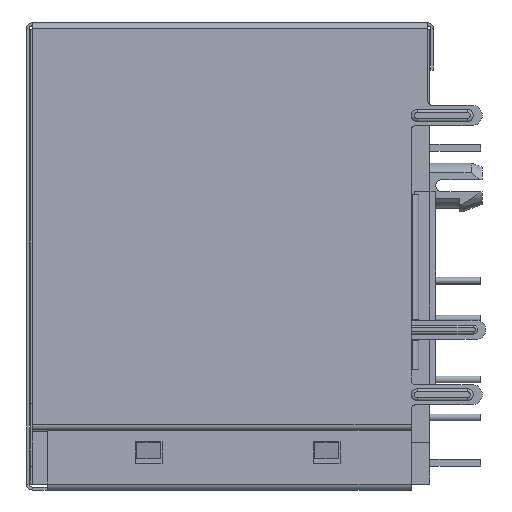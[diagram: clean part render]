
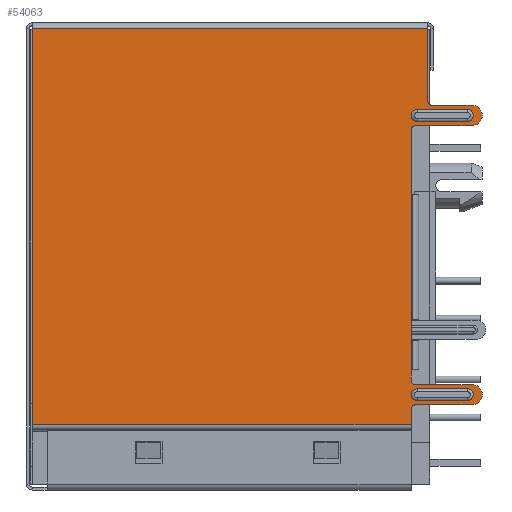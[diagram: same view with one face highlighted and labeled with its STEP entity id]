
A CAD part, left-side view. The second image highlights one B-rep face of the part: STEP entity #54063.
In plain terms, the highlighted planar face has unit normal (-1, 0, 0).
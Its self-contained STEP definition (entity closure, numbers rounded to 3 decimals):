
#47402=DIRECTION('',(0.,0.,1.));
#47403=VECTOR('',#47402,26.45);
#47404=CARTESIAN_POINT('',(-8.565,-0.2,-13.225));
#47405=LINE('',#47404,#47403);
#47420=DIRECTION('',(0.,-1.,0.));
#47421=VECTOR('',#47420,1.4);
#47422=CARTESIAN_POINT('',(-8.565,-19.64,12.11));
#47423=LINE('',#47422,#47421);
#47424=DIRECTION('',(0.,-1.,0.));
#47425=VECTOR('',#47424,0.7);
#47426=CARTESIAN_POINT('',(-8.565,-22.985,12.11));
#47427=LINE('',#47426,#47425);
#47428=CARTESIAN_POINT('',(-8.565,-23.685,12.41));
#47429=DIRECTION('',(-1.,0.,0.));
#47430=DIRECTION('',(0.,0.,-1.));
#47431=AXIS2_PLACEMENT_3D('',#47428,#47429,#47430);
#47433=DIRECTION('',(0.,0.,1.));
#47434=VECTOR('',#47433,3.775);
#47435=CARTESIAN_POINT('',(-8.565,-23.985,12.41));
#47436=LINE('',#47435,#47434);
#47437=CARTESIAN_POINT('',(-8.565,-24.66,16.185));
#47438=DIRECTION('',(1.,0.,0.));
#47439=DIRECTION('',(0.,1.,0.));
#47440=AXIS2_PLACEMENT_3D('',#47437,#47438,#47439);
#47442=DIRECTION('',(0.,0.,-1.));
#47443=VECTOR('',#47442,3.775);
#47444=CARTESIAN_POINT('',(-8.565,-25.335,16.185));
#47445=LINE('',#47444,#47443);
#47446=CARTESIAN_POINT('',(-8.565,-25.635,12.41));
#47447=DIRECTION('',(-1.,0.,0.));
#47448=DIRECTION('',(0.,1.,0.));
#47449=AXIS2_PLACEMENT_3D('',#47446,#47447,#47448);
#47451=DIRECTION('',(0.,-1.,0.));
#47452=VECTOR('',#47451,1.045);
#47453=CARTESIAN_POINT('',(-8.565,-25.635,12.11));
#47454=LINE('',#47453,#47452);
#47455=DIRECTION('',(0.,1.,0.));
#47456=VECTOR('',#47455,26.48);
#47457=CARTESIAN_POINT('',(-8.565,-26.68,-13.225));
#47458=LINE('',#47457,#47456);
#47459=DIRECTION('',(0.,-1.,0.));
#47460=VECTOR('',#47459,4.815);
#47461=CARTESIAN_POINT('',(-8.565,-0.2,13.225));
#47462=LINE('',#47461,#47460);
#47463=CARTESIAN_POINT('',(-8.565,-5.015,13.525));
#47464=DIRECTION('',(-1.,0.,0.));
#47465=DIRECTION('',(0.,0.,-1.));
#47466=AXIS2_PLACEMENT_3D('',#47463,#47464,#47465);
#47468=DIRECTION('',(0.,0.,1.));
#47469=VECTOR('',#47468,2.66);
#47470=CARTESIAN_POINT('',(-8.565,-5.315,13.525));
#47471=LINE('',#47470,#47469);
#47472=CARTESIAN_POINT('',(-8.565,-5.99,16.185));
#47473=DIRECTION('',(1.,0.,0.));
#47474=DIRECTION('',(0.,1.,0.));
#47475=AXIS2_PLACEMENT_3D('',#47472,#47473,#47474);
#47477=DIRECTION('',(0.,0.,-1.));
#47478=VECTOR('',#47477,3.775);
#47479=CARTESIAN_POINT('',(-8.565,-6.665,16.185));
#47480=LINE('',#47479,#47478);
#47481=CARTESIAN_POINT('',(-8.565,-6.965,12.41));
#47482=DIRECTION('',(-1.,0.,0.));
#47483=DIRECTION('',(0.,1.,0.));
#47484=AXIS2_PLACEMENT_3D('',#47481,#47482,#47483);
#47486=DIRECTION('',(0.,-1.,0.));
#47487=VECTOR('',#47486,4.3);
#47488=CARTESIAN_POINT('',(-8.565,-6.965,12.11));
#47489=LINE('',#47488,#47487);
#47490=CARTESIAN_POINT('',(-8.565,-5.99,15.86));
#47491=DIRECTION('',(1.,0.,0.));
#47492=DIRECTION('',(0.,1.,0.));
#47493=AXIS2_PLACEMENT_3D('',#47490,#47491,#47492);
#47495=DIRECTION('',(0.,0.,-1.));
#47496=VECTOR('',#47495,3.35);
#47497=CARTESIAN_POINT('',(-8.565,-5.59,15.86));
#47498=LINE('',#47497,#47496);
#47499=CARTESIAN_POINT('',(-8.565,-5.99,12.51));
#47500=DIRECTION('',(1.,0.,0.));
#47501=DIRECTION('',(0.,-1.,0.));
#47502=AXIS2_PLACEMENT_3D('',#47499,#47500,#47501);
#47504=DIRECTION('',(0.,0.,1.));
#47505=VECTOR('',#47504,3.35);
#47506=CARTESIAN_POINT('',(-8.565,-6.39,12.51));
#47507=LINE('',#47506,#47505);
#47508=CARTESIAN_POINT('',(-8.565,-24.66,15.86));
#47509=DIRECTION('',(1.,0.,0.));
#47510=DIRECTION('',(0.,1.,0.));
#47511=AXIS2_PLACEMENT_3D('',#47508,#47509,#47510);
#47513=DIRECTION('',(0.,0.,-1.));
#47514=VECTOR('',#47513,3.35);
#47515=CARTESIAN_POINT('',(-8.565,-24.26,15.86));
#47516=LINE('',#47515,#47514);
#47517=CARTESIAN_POINT('',(-8.565,-24.66,12.51));
#47518=DIRECTION('',(1.,0.,0.));
#47519=DIRECTION('',(0.,-1.,0.));
#47520=AXIS2_PLACEMENT_3D('',#47517,#47518,#47519);
#47522=DIRECTION('',(0.,0.,1.));
#47523=VECTOR('',#47522,3.35);
#47524=CARTESIAN_POINT('',(-8.565,-25.06,12.51));
#47525=LINE('',#47524,#47523);
#47654=DIRECTION('',(0.,0.,1.));
#47655=VECTOR('',#47654,25.335);
#47656=CARTESIAN_POINT('',(-8.565,-26.68,-13.225));
#47657=LINE('',#47656,#47655);
#47716=DIRECTION('',(0.,1.,0.));
#47717=VECTOR('',#47716,8.375);
#47718=CARTESIAN_POINT('',(-8.565,-19.64,12.11));
#47719=LINE('',#47718,#47717);
#47724=DIRECTION('',(0.,1.,0.));
#47725=VECTOR('',#47724,1.945);
#47726=CARTESIAN_POINT('',(-8.565,-22.985,12.11));
#47727=LINE('',#47726,#47725);
#50646=CARTESIAN_POINT('',(-8.565,-26.68,-13.225));
#50647=CARTESIAN_POINT('',(-8.565,-0.2,-13.225));
#50648=VERTEX_POINT('',#50646);
#50649=VERTEX_POINT('',#50647);
#50654=CARTESIAN_POINT('',(-8.565,-26.68,12.11));
#50656=VERTEX_POINT('',#50654);
#50658=CARTESIAN_POINT('',(-8.565,-0.2,13.225));
#50659=CARTESIAN_POINT('',(-8.565,-5.015,13.225));
#50660=VERTEX_POINT('',#50658);
#50661=VERTEX_POINT('',#50659);
#50662=CARTESIAN_POINT('',(-8.565,-5.315,13.525));
#50663=VERTEX_POINT('',#50662);
#50664=CARTESIAN_POINT('',(-8.565,-5.315,16.185));
#50665=VERTEX_POINT('',#50664);
#50666=CARTESIAN_POINT('',(-8.565,-6.665,16.185));
#50667=VERTEX_POINT('',#50666);
#50668=CARTESIAN_POINT('',(-8.565,-6.665,12.41));
#50669=VERTEX_POINT('',#50668);
#50670=CARTESIAN_POINT('',(-8.565,-6.965,12.11));
#50671=VERTEX_POINT('',#50670);
#50672=CARTESIAN_POINT('',(-8.565,-23.685,12.11));
#50673=CARTESIAN_POINT('',(-8.565,-23.985,12.41));
#50674=VERTEX_POINT('',#50672);
#50675=VERTEX_POINT('',#50673);
#50676=CARTESIAN_POINT('',(-8.565,-23.985,16.185));
#50677=VERTEX_POINT('',#50676);
#50678=CARTESIAN_POINT('',(-8.565,-25.335,16.185));
#50679=VERTEX_POINT('',#50678);
#50680=CARTESIAN_POINT('',(-8.565,-25.335,12.41));
#50681=VERTEX_POINT('',#50680);
#50682=CARTESIAN_POINT('',(-8.565,-25.635,12.11));
#50683=VERTEX_POINT('',#50682);
#50710=CARTESIAN_POINT('',(-8.565,-22.985,12.11));
#50712=VERTEX_POINT('',#50710);
#50718=CARTESIAN_POINT('',(-8.565,-11.265,12.11));
#50720=VERTEX_POINT('',#50718);
#50870=CARTESIAN_POINT('',(-8.565,-19.64,12.11));
#50871=CARTESIAN_POINT('',(-8.565,-21.04,12.11));
#50872=VERTEX_POINT('',#50870);
#50873=VERTEX_POINT('',#50871);
#50962=CARTESIAN_POINT('',(-8.565,-5.59,15.86));
#50963=CARTESIAN_POINT('',(-8.565,-6.39,15.86));
#50964=VERTEX_POINT('',#50962);
#50965=VERTEX_POINT('',#50963);
#50966=CARTESIAN_POINT('',(-8.565,-6.39,12.51));
#50967=VERTEX_POINT('',#50966);
#50968=CARTESIAN_POINT('',(-8.565,-5.59,12.51));
#50969=VERTEX_POINT('',#50968);
#50994=CARTESIAN_POINT('',(-8.565,-24.26,15.86));
#50995=CARTESIAN_POINT('',(-8.565,-25.06,15.86));
#50996=VERTEX_POINT('',#50994);
#50997=VERTEX_POINT('',#50995);
#50998=CARTESIAN_POINT('',(-8.565,-25.06,12.51));
#50999=VERTEX_POINT('',#50998);
#51000=CARTESIAN_POINT('',(-8.565,-24.26,12.51));
#51001=VERTEX_POINT('',#51000);
#53997=CARTESIAN_POINT('',(-8.565,0.2,6.94));
#53998=DIRECTION('',(1.,0.,0.));
#53999=DIRECTION('',(0.,0.,1.));
#54000=AXIS2_PLACEMENT_3D('',#53997,#53998,#53999);
#54001=PLANE('',#54000);
#54003=ORIENTED_EDGE('',*,*,#54002,.T.);
#54005=ORIENTED_EDGE('',*,*,#54004,.F.);
#54007=ORIENTED_EDGE('',*,*,#54006,.T.);
#54009=ORIENTED_EDGE('',*,*,#54008,.T.);
#54011=ORIENTED_EDGE('',*,*,#54010,.T.);
#54013=ORIENTED_EDGE('',*,*,#54012,.T.);
#54015=ORIENTED_EDGE('',*,*,#54014,.T.);
#54017=ORIENTED_EDGE('',*,*,#54016,.T.);
#54019=ORIENTED_EDGE('',*,*,#54018,.T.);
#54021=ORIENTED_EDGE('',*,*,#54020,.F.);
#54023=ORIENTED_EDGE('',*,*,#54022,.T.);
#54024=ORIENTED_EDGE('',*,*,#53988,.T.);
#54026=ORIENTED_EDGE('',*,*,#54025,.T.);
#54028=ORIENTED_EDGE('',*,*,#54027,.T.);
#54030=ORIENTED_EDGE('',*,*,#54029,.T.);
#54032=ORIENTED_EDGE('',*,*,#54031,.T.);
#54034=ORIENTED_EDGE('',*,*,#54033,.T.);
#54036=ORIENTED_EDGE('',*,*,#54035,.T.);
#54038=ORIENTED_EDGE('',*,*,#54037,.T.);
#54040=ORIENTED_EDGE('',*,*,#54039,.F.);
#54041=EDGE_LOOP('',(#54003,#54005,#54007,#54009,#54011,#54013,#54015,#54017,
#54019,#54021,#54023,#54024,#54026,#54028,#54030,#54032,#54034,#54036,#54038,
#54040));
#54042=FACE_OUTER_BOUND('',#54041,.F.);
#54044=ORIENTED_EDGE('',*,*,#54043,.F.);
#54046=ORIENTED_EDGE('',*,*,#54045,.T.);
#54048=ORIENTED_EDGE('',*,*,#54047,.F.);
#54050=ORIENTED_EDGE('',*,*,#54049,.T.);
#54051=EDGE_LOOP('',(#54044,#54046,#54048,#54050));
#54052=FACE_BOUND('',#54051,.F.);
#54054=ORIENTED_EDGE('',*,*,#54053,.F.);
#54056=ORIENTED_EDGE('',*,*,#54055,.T.);
#54058=ORIENTED_EDGE('',*,*,#54057,.F.);
#54060=ORIENTED_EDGE('',*,*,#54059,.T.);
#54061=EDGE_LOOP('',(#54054,#54056,#54058,#54060));
#54062=FACE_BOUND('',#54061,.F.);
#54063=ADVANCED_FACE('',(#54042,#54052,#54062),#54001,.F.);
#47432=CIRCLE('',#47431,0.3);
#47441=CIRCLE('',#47440,0.675);
#47450=CIRCLE('',#47449,0.3);
#47467=CIRCLE('',#47466,0.3);
#47476=CIRCLE('',#47475,0.675);
#47485=CIRCLE('',#47484,0.3);
#47494=CIRCLE('',#47493,0.4);
#47503=CIRCLE('',#47502,0.4);
#47512=CIRCLE('',#47511,0.4);
#47521=CIRCLE('',#47520,0.4);
#53988=EDGE_CURVE('',#50649,#50660,#47405,.T.);
#54002=EDGE_CURVE('',#50872,#50873,#47423,.T.);
#54004=EDGE_CURVE('',#50712,#50873,#47727,.T.);
#54006=EDGE_CURVE('',#50712,#50674,#47427,.T.);
#54008=EDGE_CURVE('',#50674,#50675,#47432,.T.);
#54010=EDGE_CURVE('',#50675,#50677,#47436,.T.);
#54012=EDGE_CURVE('',#50677,#50679,#47441,.T.);
#54014=EDGE_CURVE('',#50679,#50681,#47445,.T.);
#54016=EDGE_CURVE('',#50681,#50683,#47450,.T.);
#54018=EDGE_CURVE('',#50683,#50656,#47454,.T.);
#54020=EDGE_CURVE('',#50648,#50656,#47657,.T.);
#54022=EDGE_CURVE('',#50648,#50649,#47458,.T.);
#54025=EDGE_CURVE('',#50660,#50661,#47462,.T.);
#54027=EDGE_CURVE('',#50661,#50663,#47467,.T.);
#54029=EDGE_CURVE('',#50663,#50665,#47471,.T.);
#54031=EDGE_CURVE('',#50665,#50667,#47476,.T.);
#54033=EDGE_CURVE('',#50667,#50669,#47480,.T.);
#54035=EDGE_CURVE('',#50669,#50671,#47485,.T.);
#54037=EDGE_CURVE('',#50671,#50720,#47489,.T.);
#54039=EDGE_CURVE('',#50872,#50720,#47719,.T.);
#54043=EDGE_CURVE('',#50964,#50965,#47494,.T.);
#54045=EDGE_CURVE('',#50964,#50969,#47498,.T.);
#54047=EDGE_CURVE('',#50967,#50969,#47503,.T.);
#54049=EDGE_CURVE('',#50967,#50965,#47507,.T.);
#54053=EDGE_CURVE('',#50996,#50997,#47512,.T.);
#54055=EDGE_CURVE('',#50996,#51001,#47516,.T.);
#54057=EDGE_CURVE('',#50999,#51001,#47521,.T.);
#54059=EDGE_CURVE('',#50999,#50997,#47525,.T.);
